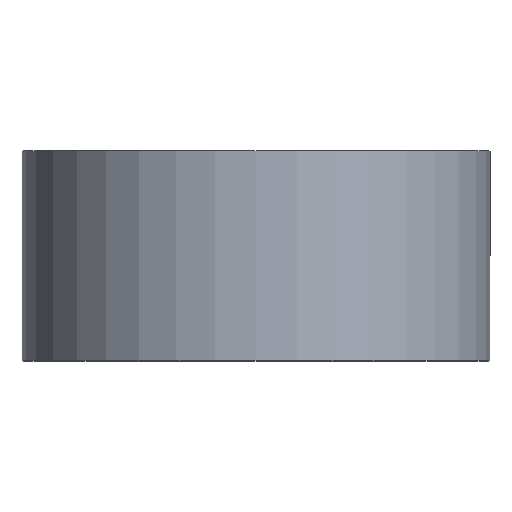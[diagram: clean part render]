
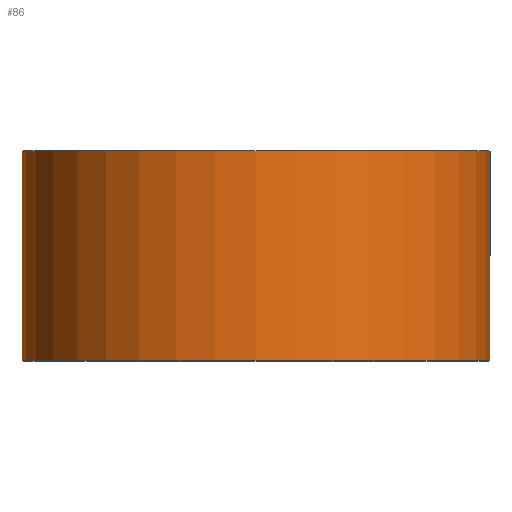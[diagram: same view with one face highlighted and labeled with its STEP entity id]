
A CAD part, top view. The second image highlights one B-rep face of the part: STEP entity #86.
In plain terms, the highlighted cylindrical face has radius 39 mm (diameter 78 mm), a partial arc.
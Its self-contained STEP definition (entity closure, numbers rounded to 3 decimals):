
#4 = CARTESIAN_POINT ( 'NONE',  ( -39., 35., 0. ) ) ;
#12 = VERTEX_POINT ( 'NONE', #4 ) ;
#22 = CYLINDRICAL_SURFACE ( 'NONE', #239, 39. ) ;
#23 = VERTEX_POINT ( 'NONE', #172 ) ;
#39 = DIRECTION ( 'NONE',  ( 0., 1., 0. ) ) ;
#48 = CARTESIAN_POINT ( 'NONE',  ( 39., 35., 0. ) ) ;
#51 = VERTEX_POINT ( 'NONE', #279 ) ;
#54 = DIRECTION ( 'NONE',  ( 0., 1., 0. ) ) ;
#66 = ORIENTED_EDGE ( 'NONE', *, *, #142, .T. ) ;
#69 = CARTESIAN_POINT ( 'NONE',  ( 0., 35., 0. ) ) ;
#71 = VERTEX_POINT ( 'NONE', #48 ) ;
#78 = CIRCLE ( 'NONE', #166, 39. ) ;
#81 = FACE_OUTER_BOUND ( 'NONE', #210, .T. ) ;
#86 = ADVANCED_FACE ( 'NONE', ( #81 ), #22, .T. ) ;
#91 = DIRECTION ( 'NONE',  ( -1., 0., 0. ) ) ;
#97 = CARTESIAN_POINT ( 'NONE',  ( 0., 0., 0. ) ) ;
#108 = VECTOR ( 'NONE', #238, 1000. ) ;
#112 = LINE ( 'NONE', #262, #288 ) ;
#113 = DIRECTION ( 'NONE',  ( 0., 1., 0. ) ) ;
#129 = EDGE_CURVE ( 'NONE', #51, #12, #112, .T. ) ;
#142 = EDGE_CURVE ( 'NONE', #23, #71, #269, .T. ) ;
#161 = AXIS2_PLACEMENT_3D ( 'NONE', #69, #176, #91 ) ;
#164 = CARTESIAN_POINT ( 'NONE',  ( 39., 0., 0. ) ) ;
#166 = AXIS2_PLACEMENT_3D ( 'NONE', #205, #113, #300 ) ;
#172 = CARTESIAN_POINT ( 'NONE',  ( 39., 0., 0. ) ) ;
#176 = DIRECTION ( 'NONE',  ( 0., 1., 0. ) ) ;
#180 = CIRCLE ( 'NONE', #161, 39. ) ;
#193 = EDGE_CURVE ( 'NONE', #12, #71, #180, .T. ) ;
#194 = ORIENTED_EDGE ( 'NONE', *, *, #193, .F. ) ;
#205 = CARTESIAN_POINT ( 'NONE',  ( 0., 0., 0. ) ) ;
#208 = DIRECTION ( 'NONE',  ( -1., 0., 0. ) ) ;
#210 = EDGE_LOOP ( 'NONE', ( #291, #66, #194, #221 ) ) ;
#221 = ORIENTED_EDGE ( 'NONE', *, *, #129, .F. ) ;
#238 = DIRECTION ( 'NONE',  ( 0., 1., 0. ) ) ;
#239 = AXIS2_PLACEMENT_3D ( 'NONE', #97, #54, #208 ) ;
#262 = CARTESIAN_POINT ( 'NONE',  ( -39., 0., 0. ) ) ;
#269 = LINE ( 'NONE', #164, #108 ) ;
#279 = CARTESIAN_POINT ( 'NONE',  ( -39., 0., 0. ) ) ;
#288 = VECTOR ( 'NONE', #39, 1000. ) ;
#291 = ORIENTED_EDGE ( 'NONE', *, *, #294, .T. ) ;
#294 = EDGE_CURVE ( 'NONE', #51, #23, #78, .T. ) ;
#300 = DIRECTION ( 'NONE',  ( -1., 0., 0. ) ) ;
